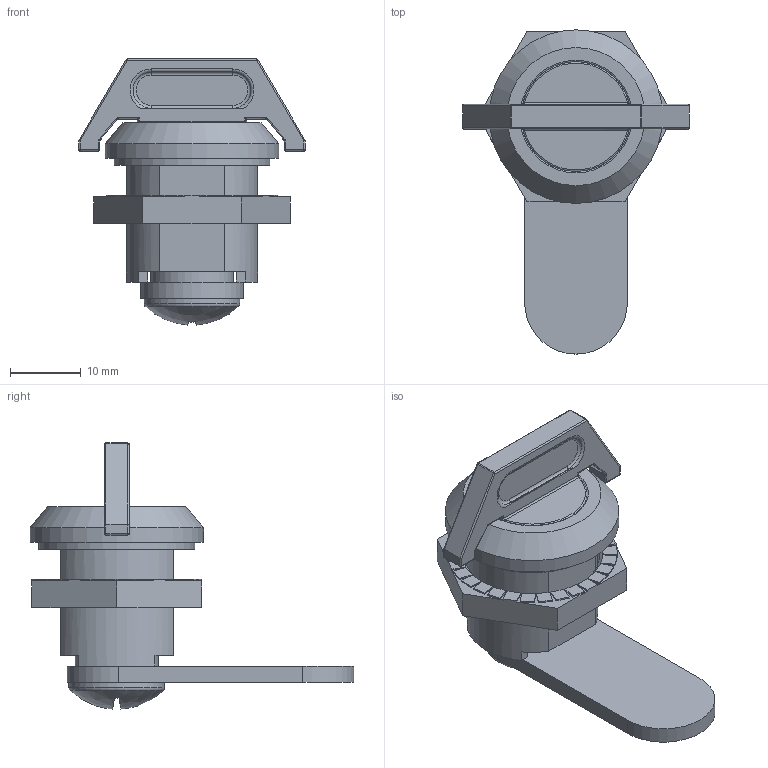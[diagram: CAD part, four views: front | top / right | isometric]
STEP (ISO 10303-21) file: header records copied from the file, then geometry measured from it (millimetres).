
FILE_DESCRIPTION(/* description */ (''),/* implementation_level */ '2;1');
FILE_NAME(/* name */ '\\NAS\db20\KC-53\DR_KC-53.stp',/* time_stamp */ '2017-08-02T11:10:17+09:00',/* author */ ('user'),/* organization */ (''),/* preprocessor_version */ 'ST-DEVELOPER v15.6',/* originating_system */ 'Autodesk Inventor 2015',/* authorisation */ '');
FILE_SCHEMA (('AUTOMOTIVE_DESIGN { 1 0 10303 214 3 1 1 }'));
Length unit declared in the file: millimetre
Products named in the file (5): DR_KC-53; DR_KC-53-C; DR_KC-53-SC; DR_M19NUT
Bounding box: 32 x 45.75 x 37.56 mm (x, y, z)
Volume: 9312.7 mm3; surface area: 7845.8 mm2
Topology: 5 solids, 5 shells, 343 faces, 849 edges, 521 vertices
Faces by surface type: plane 222, cylinder 68, torus 22, sphere 17, bspline 12, cone 2
Full cylindrical faces by diameter (mm): 6 x2, 11.7 x1, 11.8 x1, 13.5 x1, 15.5 x2, 19 x1, 22 x1, 24.5 x1
Entity records: 10298 total; most frequent: CARTESIAN_POINT 2046, DIRECTION 1710, ORIENTED_EDGE 1660, EDGE_CURVE 830, LINE 590, VECTOR 590, AXIS2_PLACEMENT_3D 560, VERTEX_POINT 520
